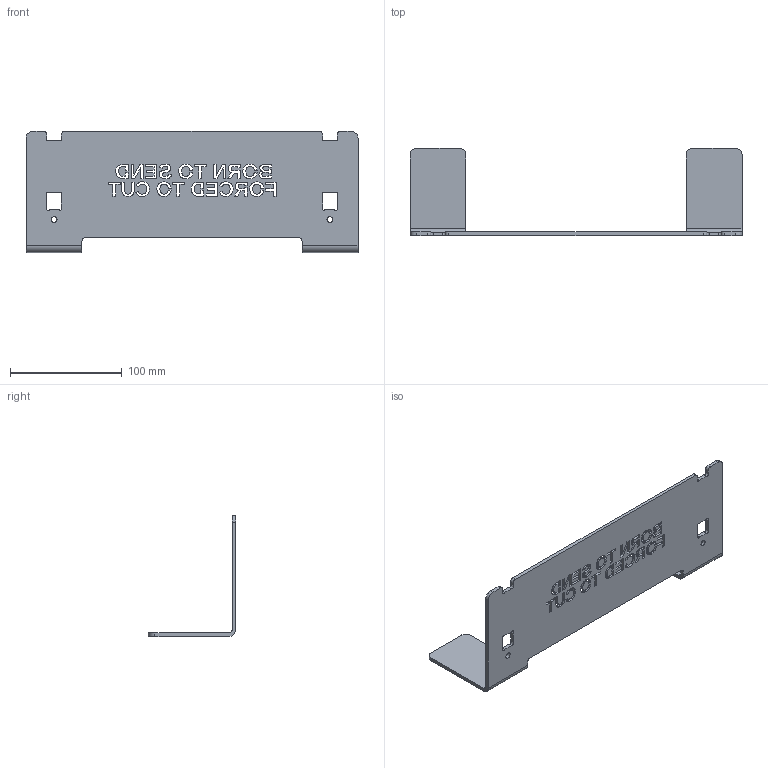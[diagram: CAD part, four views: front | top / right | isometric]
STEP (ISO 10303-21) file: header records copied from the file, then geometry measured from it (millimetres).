
FILE_DESCRIPTION(('HOOPS Exchange Step'),'2;1');
FILE_NAME('/home/e/Projects/CAD/SCS_XX/laptopStand_26/release/P2-A-00.step','2026-10-14T12:40:23-07:00',('e'),('Unknown organisation'),'HOOPS Exchange 2025.8','HOOPS Exchange','Unknown authorisation');
FILE_SCHEMA( ('AP203_CONFIGURATION_CONTROLLED_3D_DESIGN_OF_MECHANICAL_PARTS_AND_ASSEMBLIES_MIM_LF') );
Length unit declared in the file: millimetre
Products named in the file (1): root
Bounding box: 296.66 x 78.18 x 108.18 mm (x, y, z)
Volume: 109930.2 mm3; surface area: 77705 mm2
Topology: 1 solids, 1 shells, 1064 faces, 3190 edges, 2128 vertices
Faces by surface type: plane 1034, cylinder 30
Full cylindrical faces by diameter (mm): 5.25 x2
Entity records: 35287 total; most frequent: CARTESIAN_POINT 6383, ORIENTED_EDGE 6380, DIRECTION 5384, EDGE_CURVE 3190, VECTOR 3126, LINE 3126, VERTEX_POINT 2128, AXIS2_PLACEMENT_3D 1129
